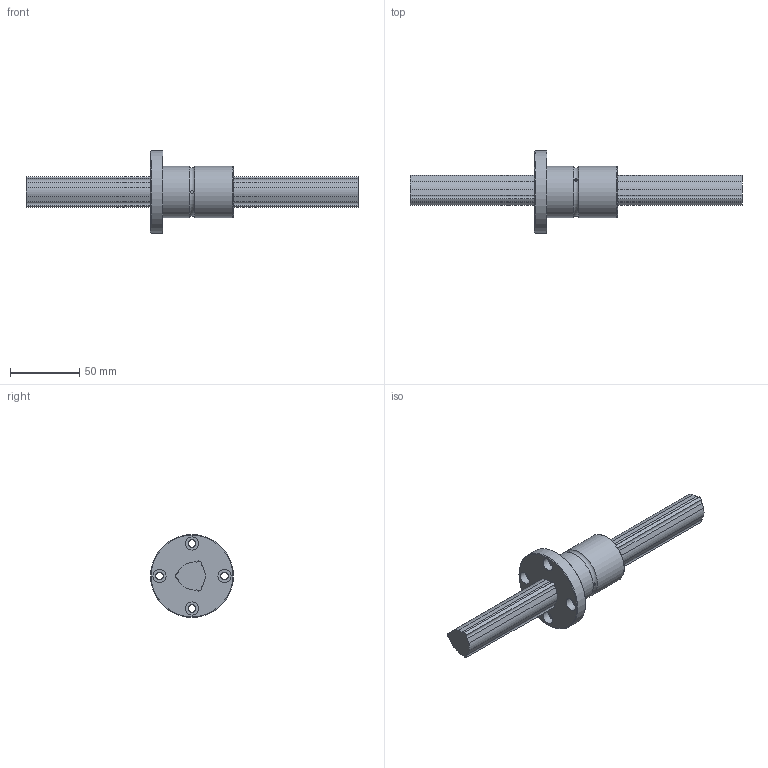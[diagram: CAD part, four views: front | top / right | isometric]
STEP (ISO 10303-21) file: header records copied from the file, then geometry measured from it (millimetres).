
FILE_DESCRIPTION(/* description */ ('STEP AP203'),/* implementation_level */ '2;1');
FILE_NAME(/* name */ 'LBF25+240L(240900)',/* time_stamp */ '2024-05-23T12:04:50+02:00',/* author */ ('License CC BY-ND 4.0'),/* organization */ ('CADENAS'),/* preprocessor_version */ 'ST-DEVELOPER v19.3',/* originating_system */ 'PARTsolutions',/* authorisation */ ' ');
FILE_SCHEMA (('CONFIG_CONTROL_DESIGN'));
Length unit declared in the file: millimetre
Products named in the file (3): LBF25+240L(240900); LBF251240 Spline Shaft; LBF25 Nut
Assembly tree (2 placements, depth 2):
  LBF25+240L(240900)
    LBF251240 Spline Shaft
    LBF25 Nut
Bounding box: 240 x 60 x 60 mm (x, y, z)
Volume: 138181.5 mm3; surface area: 35422.1 mm2
Topology: 2 solids, 2 shells, 66 faces, 165 edges, 111 vertices
Faces by surface type: cylinder 38, plane 24, torus 2, cone 2
Full cylindrical faces by diameter (mm): 2 x3, 5.5 x4, 9.5 x4, 37 x2, 60 x1
Entity records: 1966 total; most frequent: DIRECTION 350, CARTESIAN_POINT 341, ORIENTED_EDGE 278, AXIS2_PLACEMENT_3D 145, EDGE_CURVE 139, VERTEX_POINT 103, EDGE_LOOP 102, FACE_BOUND 102
